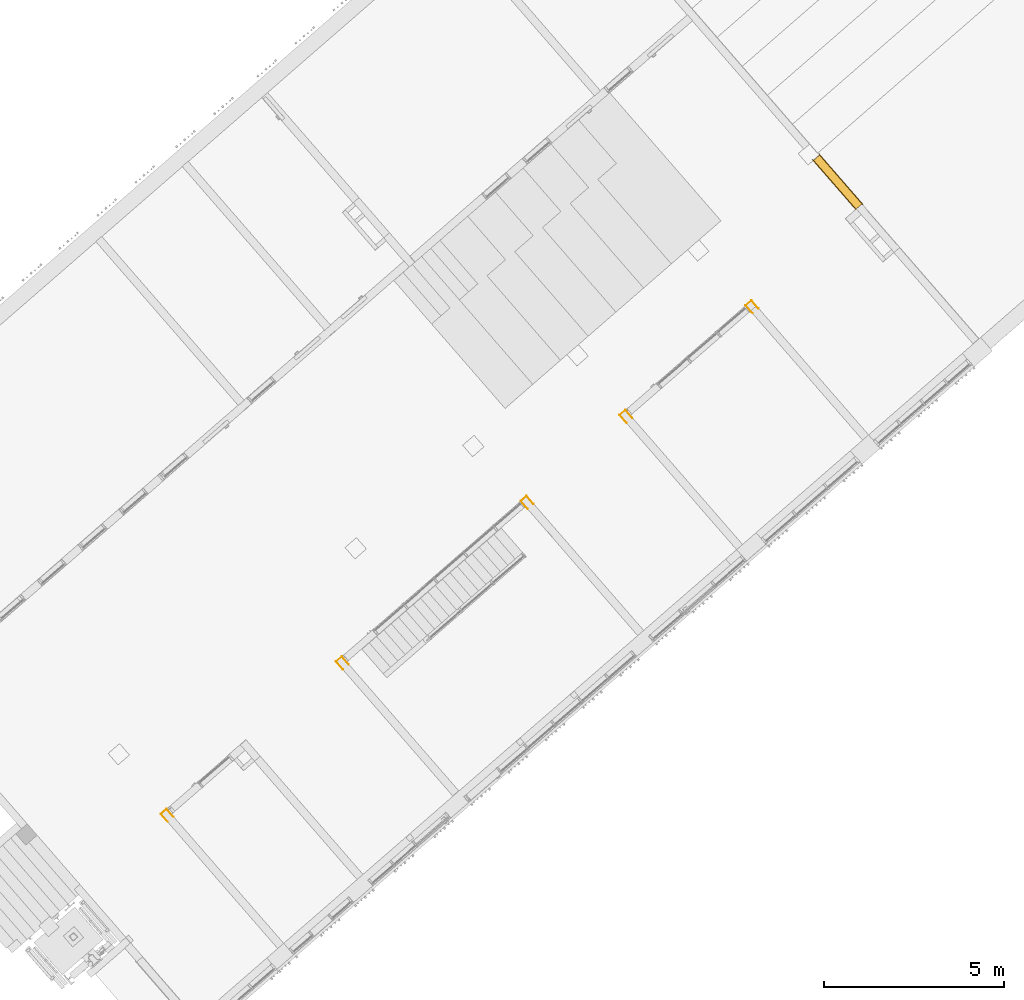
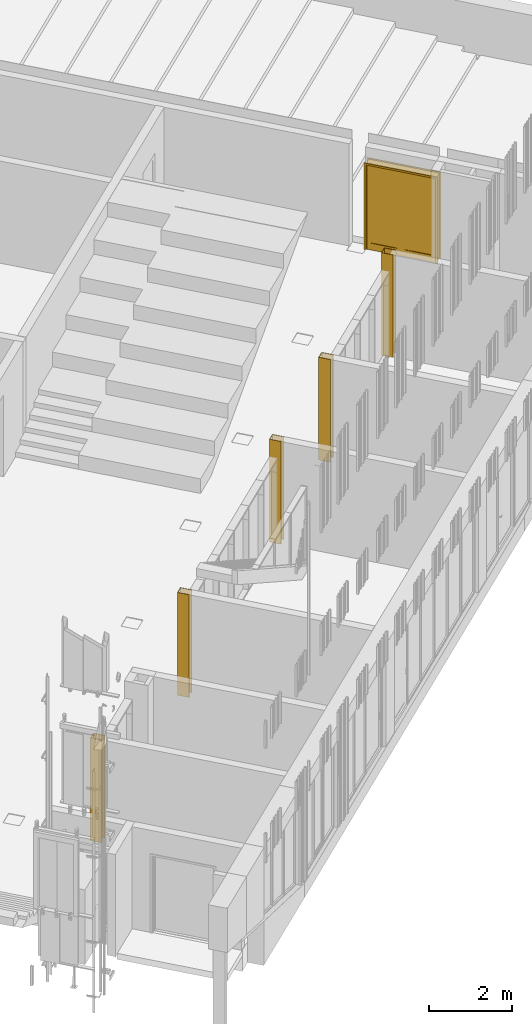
# One storey, part 112 of 124: 5 coverings, 1 door.
"""IFC2X3 building model written with IfcOpenShell, lengths in millimetres."""

import ifcopenshell
import ifcopenshell.guid

model = None  # the IFC model being written
_history = None  # IfcOwnerHistory: only IFC2X3 demands one
_inside = {}  # id of a spatial element -> (the spatial element, [elements in it])
_under = {}  # id of a project, library or spatial element -> (it, [spatial elements below it])
_declared = {}  # id of a project -> (the project, [libraries it declares])
_typed = {}  # id of a type object -> (the type object, [elements of that type])
_made_of = {}  # id of a material, layer set ... -> (it, [elements and type objects made of it])


def new_model(schema):
    """Start an empty IFC model of exactly this schema.

    Asked for "IFC4X3", IfcOpenShell would pick the latest addendum, in which some entities
    have other attributes; the version numbers below select the first issue.
    IFC2X3 requires an IfcOwnerHistory on every rooted entity: one is made here for all.
    """
    global model, _history
    if schema == "IFC4X3":
        model = ifcopenshell.file(schema_version=(4, 3, 0, 0))
    else:
        model = ifcopenshell.file(schema=schema)
    _inside.clear()
    _under.clear()
    _declared.clear()
    _typed.clear()
    _made_of.clear()
    _history = None
    if model.schema == "IFC2X3":
        org = make("IfcOrganization", Name="unknown")
        user = make(
            "IfcPersonAndOrganization",
            ThePerson=make("IfcPerson", FamilyName="unknown"),
            TheOrganization=org,
        )
        app = make(
            "IfcApplication",
            ApplicationDeveloper=org,
            Version="unknown",
            ApplicationFullName="unknown",
            ApplicationIdentifier="unknown",
        )
        _history = make(
            "IfcOwnerHistory",
            OwningUser=user,
            OwningApplication=app,
            ChangeAction="ADDED",
            CreationDate=0,
        )
    return model


def make(cls, **values):
    """One entity of the class cls with the attributes given. An attribute that is None is left unset."""
    return model.create_entity(
        cls, **{name: value for name, value in values.items() if value is not None}
    )


def entity(cls, *values):
    """Any entity or typed value of the class cls, its attributes in the order of the schema. None: left unset."""
    e = model.create_entity(cls)
    for i, value in enumerate(values):
        if value is not None:
            e[i] = value
    return e


def rooted(cls, **values):
    """An entity with a GlobalId (a new one), such as an element, a storey or a relation."""
    return make(cls, GlobalId=ifcopenshell.guid.new(), OwnerHistory=_history, **values)


def si_unit(unit_type, name, prefix=None):
    """IfcSIUnit, for example si_unit("LENGTHUNIT", "METRE", prefix="MILLI")."""
    return make("IfcSIUnit", UnitType=unit_type, Prefix=prefix, Name=name)


def converted_unit(unit_type, name, factor, base, dimensions=None, offset=None):
    """IfcConversionBasedUnit, such as the inch: factor (a typed value) times the base unit."""
    return make(
        "IfcConversionBasedUnit"
        if offset is None
        else "IfcConversionBasedUnitWithOffset",
        ConversionOffset=offset,
        Dimensions=None
        if dimensions is None
        else entity("IfcDimensionalExponents", *dimensions),
        UnitType=unit_type,
        Name=name,
        ConversionFactor=make(
            "IfcMeasureWithUnit", ValueComponent=factor, UnitComponent=base
        ),
    )


def derived_unit(unit_type, elements):
    """IfcDerivedUnit: a product of units, each with its exponent."""
    return make(
        "IfcDerivedUnit",
        Elements=[
            make("IfcDerivedUnitElement", Unit=unit, Exponent=power)
            for unit, power in elements
        ],
        UnitType=unit_type,
    )


def money_unit(currency):
    """IfcMonetaryUnit."""
    return make("IfcMonetaryUnit", Currency=currency)


def assignment(units):
    """IfcUnitAssignment: the units of a project."""
    return None if units is None else make("IfcUnitAssignment", Units=units)


def point(xyz):
    """IfcCartesianPoint."""
    return None if xyz is None else make("IfcCartesianPoint", Coordinates=xyz)


def direction(xyz):
    """IfcDirection."""
    return None if xyz is None else make("IfcDirection", DirectionRatios=xyz)


def frame(location, z_axis=None, x_axis=None):
    """IfcAxis2Placement3D, a coordinate frame: its origin and axes. An axis left out is left unset."""
    return make(
        "IfcAxis2Placement3D",
        Location=point(location),
        Axis=direction(z_axis),
        RefDirection=direction(x_axis),
    )


def origin_with_axes():
    """The frame at (0, 0, 0) with the z axis (0, 0, 1) and the x axis (1, 0, 0) written out."""
    return frame((0.0, 0.0, 0.0), z_axis=(0.0, 0.0, 1.0), x_axis=(1.0, 0.0, 0.0))


def place(relative_to, where):
    """IfcLocalPlacement: puts the frame where relative to a parent placement (None: the world)."""
    return make(
        "IfcLocalPlacement", PlacementRelTo=relative_to, RelativePlacement=where
    )


def context(
    kind, dimensions, precision=None, world=None, true_north=None, identifier=None
):
    """IfcGeometricRepresentationContext, for example the 3D "Model" context."""
    return make(
        "IfcGeometricRepresentationContext",
        ContextIdentifier=identifier,
        ContextType=kind,
        CoordinateSpaceDimension=dimensions,
        Precision=precision,
        WorldCoordinateSystem=world,
        TrueNorth=true_north,
    )


def subcontext(parent, identifier, kind, view, scale=None):
    """IfcGeometricRepresentationSubContext, for example "Body" below "Model"."""
    return make(
        "IfcGeometricRepresentationSubContext",
        ContextIdentifier=identifier,
        ContextType=kind,
        ParentContext=parent,
        TargetScale=scale,
        TargetView=view,
    )


def project(units=None, contexts=None):
    """IfcProject with its units and contexts."""
    return rooted(
        "IfcProject",
        Name="project",
        RepresentationContexts=contexts,
        UnitsInContext=assignment(units),
    )


def spatial(cls, under=None, at=None, **own):
    """A site, building, storey or space (cls), placed at a placement, below another one or the project."""
    s = rooted(cls, ObjectPlacement=at, **own)
    if under is not None:
        _under.setdefault(under.id(), (under, []))[1].append(s)
    return s


def faces_of(points, faces, orient=None, outer=None):
    """IfcFace entities. A face is a list of loops; a loop is a list of indices into points, from 0.

    orient and outer hold one flag for each loop. By default every Orientation is true, the
    first loop of a face is its IfcFaceOuterBound and the others are IfcFaceBound.
    """
    made = []
    for i, loops in enumerate(faces):
        bounds = []
        for j, loop in enumerate(loops):
            is_outer = j == 0 if outer is None else outer[i][j]
            bounds.append(
                make(
                    "IfcFaceOuterBound" if is_outer else "IfcFaceBound",
                    Bound=make("IfcPolyLoop", Polygon=[points[k] for k in loop]),
                    Orientation=True if orient is None else orient[i][j],
                )
            )
        made.append(make("IfcFace", Bounds=bounds))
    return made


def open_shell(faces, orient=None, outer=None):
    """The faces of one IfcOpenShell. surface_model builds it on its shared points."""
    return ("IfcOpenShell", faces, orient, outer)


def faceted_brep(points, faces, orient=None, outer=None, voids=None):
    """IfcFacetedBrep: a solid bounded by flat faces; with voids (closed shells), ...WithVoids."""
    shared = [point(p) for p in points]
    hull = make("IfcClosedShell", CfsFaces=faces_of(shared, faces, orient, outer))
    if voids is None:
        return make("IfcFacetedBrep", Outer=hull)
    return make(
        "IfcFacetedBrepWithVoids",
        Outer=hull,
        Voids=[
            make(cls, CfsFaces=faces_of(shared, fs, o, b)) for cls, fs, o, b in voids
        ],
    )


def surface_model(cls, points, shells):
    """IfcFaceBasedSurfaceModel or IfcShellBasedSurfaceModel (cls): surfaces that need not close."""
    shared = [point(p) for p in points]
    made = [make(c, CfsFaces=faces_of(shared, fs, o, b)) for c, fs, o, b in shells]
    if cls == "IfcFaceBasedSurfaceModel":
        return make(cls, FbsmFaces=made)
    return make(cls, SbsmBoundary=made)


def shape(context_of_items, identifier, shape_type, items):
    """IfcShapeRepresentation: the items that make up one representation, for example the "Body"."""
    return make(
        "IfcShapeRepresentation",
        ContextOfItems=context_of_items,
        RepresentationIdentifier=identifier,
        RepresentationType=shape_type,
        Items=items,
    )


def material(Name=None, Category=None):
    """IfcMaterial."""
    return make("IfcMaterial", Name=Name, Category=Category)


def material_list(materials):
    """IfcMaterialList."""
    return make("IfcMaterialList", Materials=materials)


def made_of(thing, what):
    """Note that an element or type object is made of a material, layer set ...; save() writes the relation."""
    if what is not None:
        _made_of.setdefault(what.id(), (what, []))[1].append(thing)
    return thing


def type_object(cls, material=None, **own):
    """A type object (cls), such as IfcWallType, which elements share."""
    return made_of(rooted(cls, **own), material)


def element(
    cls,
    number,
    at=None,
    inside=None,
    cuts=None,
    type_object=None,
    material=None,
    context=None,
    identifier="Body",
    shape_type=None,
    held_by="IfcProductDefinitionShape",
    body=None,
    shapes=None,
    **own,
):
    """One element of the class cls, such as IfcWall. Its Tag is "e" and its number.

    at: its placement. inside: the storey or other place that contains it. cuts: it is an
    opening in that element (IfcRelVoidsElement). A single representation is given by context,
    identifier, shape_type and body (its items); several are given by shapes. held_by: the class
    of the entity that holds the representations. save() writes the other relations.
    """
    e = rooted(cls, Tag="e%d" % number, ObjectPlacement=at, **own)
    if body is not None:
        shapes = [shape(context, identifier, shape_type, body)]
    if shapes is not None:
        e.Representation = make(held_by, Representations=shapes)
    if inside is not None:
        _inside.setdefault(inside.id(), (inside, []))[1].append(e)
    if cuts is not None:
        rooted(
            "IfcRelVoidsElement", RelatingBuildingElement=cuts, RelatedOpeningElement=e
        )
    if type_object is not None:
        _typed.setdefault(type_object.id(), (type_object, []))[1].append(e)
    return made_of(e, material)


def aggregate(whole, parts):
    """IfcRelAggregates: a whole, such as a stair, and the parts it consists of."""
    return rooted("IfcRelAggregates", RelatingObject=whole, RelatedObjects=parts)


def save(model, path):
    """Write the relations noted so far, then the file.

    IfcRelAggregates (storeys below a building ...), IfcRelContainedInSpatialStructure (elements
    in a storey), IfcRelDefinesByType, IfcRelAssociatesMaterial and IfcRelDeclares: one each for
    every whole, place, type object, material and project.
    """
    for whole, parts in _under.values():
        aggregate(whole, parts)
    for where, things in _inside.values():
        rooted(
            "IfcRelContainedInSpatialStructure",
            RelatedElements=things,
            RelatingStructure=where,
        )
    for kind, things in _typed.values():
        rooted("IfcRelDefinesByType", RelatedObjects=things, RelatingType=kind)
    for what, things in _made_of.values():
        rooted("IfcRelAssociatesMaterial", RelatedObjects=things, RelatingMaterial=what)
    for by, libraries in _declared.values():
        rooted("IfcRelDeclares", RelatingContext=by, RelatedDefinitions=libraries)
    model.write(path)


model = new_model("IFC2X3")

# Units and contexts
model_context = context("Model", 3, precision=1e-05, world=origin_with_axes(), true_north=direction((0.0, 1.0)))
body_context = subcontext(model_context, "Body", "Model", "MODEL_VIEW")
ifc_project = project(units=[si_unit("LENGTHUNIT", "METRE", prefix="MILLI"), si_unit("AREAUNIT", "SQUARE_METRE"), si_unit("VOLUMEUNIT", "CUBIC_METRE"), converted_unit("PLANEANGLEUNIT", "DEGREE", entity("IfcPlaneAngleMeasure", 0.0174532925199), si_unit("PLANEANGLEUNIT", "RADIAN"), dimensions=[0, 0, 0, 0, 0, 0, 0]), si_unit("SOLIDANGLEUNIT", "STERADIAN"), money_unit("EUR"), converted_unit("TIMEUNIT", "Year", entity("IfcTimeMeasure", 31556926.0), si_unit("TIMEUNIT", "SECOND"), dimensions=[0, 0, 1, 0, 0, 0, 0]), si_unit("MASSUNIT", "GRAM", prefix="KILO"), si_unit("THERMODYNAMICTEMPERATUREUNIT", "DEGREE_CELSIUS"), si_unit("LUMINOUSINTENSITYUNIT", "LUMEN"), si_unit("ENERGYUNIT", "JOULE", prefix="MEGA"), derived_unit("THERMALCONDUCTANCEUNIT", [(si_unit("POWERUNIT", "WATT"), 1), (si_unit("LENGTHUNIT", "METRE"), -1), (si_unit("THERMODYNAMICTEMPERATUREUNIT", "KELVIN"), -1)]), derived_unit("SPECIFICHEATCAPACITYUNIT", [(si_unit("ENERGYUNIT", "JOULE"), 1), (si_unit("MASSUNIT", "GRAM", prefix="KILO"), -1), (si_unit("THERMODYNAMICTEMPERATUREUNIT", "KELVIN"), -1)]), derived_unit("MASSDENSITYUNIT", [(si_unit("MASSUNIT", "GRAM", prefix="KILO"), 1), (si_unit("VOLUMEUNIT", "CUBIC_METRE"), -1)])], contexts=[model_context])

# Site, building, storey
site_placement = place(None, origin_with_axes())
site = spatial("IfcSite", under=ifc_project, at=site_placement, Name="Site", CompositionType="ELEMENT")
building_placement = place(site_placement, origin_with_axes())
building = spatial("IfcBuilding", under=site, at=building_placement, Name="Building", CompositionType="ELEMENT")
storey_placement = place(building_placement, frame((0.0, 0.0, -1615.0), z_axis=(0.0, 0.0, 1.0), x_axis=(1.0, 0.0, 0.0)))
storey = spatial("IfcBuildingStorey", under=building, at=storey_placement, Name="0  korrus", CompositionType="ELEMENT", Elevation=-1615.0)

# Door
door_style = type_object("IfcDoorStyle", Name="SU-08   1\xa0800×2\xa0500", ConstructionType="NOTDEFINED", OperationType="DOUBLE_DOOR_SINGLE_SWING", ParameterTakesPrecedence=False, Sizeable=False)
door_placement = place(storey_placement, frame((168852.224799, 98675.3375816, 0.0), z_axis=(0.0, 0.0, 1.0), x_axis=(-0.656059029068, 0.754709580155, 0.0)))
element("IfcDoor", 1, at=door_placement, inside=storey, type_object=door_style, Name="Siseuks * Double Door 22", OverallHeight=2500.0, OverallWidth=1800.0, context=body_context, shape_type="SurfaceModel", body=[
    faceted_brep([(0.0, -5.0, 0.0), (0.0, 0.0, 0.0), (25.0, 0.0, 0.0), (25.0, -5.0, 0.0), (0.0, -5.0, 2500.0), (0.0, 0.0, 2500.0), (25.0, 0.0, 2475.0), (25.0, -5.0, 2475.0)], [[[0, 1, 2, 3]], [[4, 5, 1, 0]], [[1, 5, 6, 2]], [[3, 2, 6, 7]], [[0, 3, 7, 4]], [[7, 6, 5, 4]]]),
    faceted_brep([(1800.0, -5.0, 2500.0), (1800.0, 0.0, 2500.0), (1775.0, 0.0, 2475.0), (1775.0, -5.0, 2475.0), (1800.0, -5.0, 0.0), (1800.0, 0.0, 0.0), (1775.0, 0.0, 0.0), (1775.0, -5.0, 0.0)], [[[0, 1, 2, 3]], [[4, 5, 1, 0]], [[1, 5, 6, 2]], [[3, 2, 6, 7]], [[0, 3, 7, 4]], [[7, 6, 5, 4]]]),
    faceted_brep([(25.0, -5.0, 2475.0), (25.0, 0.0, 2475.0), (1775.0, 0.0, 2475.0), (1775.0, -5.0, 2475.0), (0.0, -5.0, 2500.0), (0.0, 0.0, 2500.0), (1800.0, 0.0, 2500.0), (1800.0, -5.0, 2500.0)], [[[0, 1, 2, 3]], [[4, 5, 1, 0]], [[1, 5, 6, 2]], [[3, 2, 6, 7]], [[0, 3, 7, 4]], [[7, 6, 5, 4]]]),
    faceted_brep([(-37.0, 19.0, 0.0), (13.0, 19.0, 0.0), (13.0, 0.0, 0.0), (-37.0, 0.0, 0.0), (-37.0, 19.0, 2537.0), (13.0, 19.0, 2487.0), (13.0, 0.0, 2487.0), (-37.0, 0.0, 2537.0)], [[[0, 1, 2, 3]], [[0, 4, 5, 1]], [[1, 5, 6, 2]], [[3, 2, 6, 7]], [[4, 0, 3, 7]], [[5, 4, 7, 6]]]),
    faceted_brep([(1837.0, 19.0, 2537.0), (1787.0, 19.0, 2487.0), (1787.0, 0.0, 2487.0), (1837.0, 0.0, 2537.0), (1837.0, 19.0, 0.0), (1787.0, 19.0, 0.0), (1787.0, 0.0, 0.0), (1837.0, 0.0, 0.0)], [[[0, 1, 2, 3]], [[0, 4, 5, 1]], [[1, 5, 6, 2]], [[3, 2, 6, 7]], [[4, 0, 3, 7]], [[5, 4, 7, 6]]]),
    faceted_brep([(-37.0, 19.0, 2537.0), (13.0, 19.0, 2487.0), (13.0, 0.0, 2487.0), (-37.0, 0.0, 2537.0), (1837.0, 19.0, 2537.0), (1787.0, 19.0, 2487.0), (1787.0, 0.0, 2487.0), (1837.0, 0.0, 2537.0)], [[[0, 1, 2, 3]], [[0, 4, 5, 1]], [[1, 5, 6, 2]], [[3, 2, 6, 7]], [[4, 0, 3, 7]], [[5, 4, 7, 6]]]),
    faceted_brep([(0.0, -120.0, 0.0), (25.0, -120.0, 0.0), (25.0, -220.0, 0.0), (0.0, -220.0, 0.0), (0.0, -120.0, 2500.0), (25.0, -120.0, 2475.0), (25.0, -220.0, 2475.0), (0.0, -220.0, 2500.0)], [[[0, 1, 2, 3]], [[0, 4, 5, 1]], [[1, 5, 6, 2]], [[3, 2, 6, 7]], [[4, 0, 3, 7]], [[5, 4, 7, 6]]]),
    faceted_brep([(1800.0, -120.0, 2500.0), (1775.0, -120.0, 2475.0), (1775.0, -220.0, 2475.0), (1800.0, -220.0, 2500.0), (1800.0, -120.0, 0.0), (1775.0, -120.0, 0.0), (1775.0, -220.0, 0.0), (1800.0, -220.0, 0.0)], [[[0, 1, 2, 3]], [[0, 4, 5, 1]], [[1, 5, 6, 2]], [[3, 2, 6, 7]], [[4, 0, 3, 7]], [[5, 4, 7, 6]]]),
    faceted_brep([(0.0, -120.0, 2500.0), (25.0, -120.0, 2475.0), (25.0, -220.0, 2475.0), (0.0, -220.0, 2500.0), (1800.0, -120.0, 2500.0), (1775.0, -120.0, 2475.0), (1775.0, -220.0, 2475.0), (1800.0, -220.0, 2500.0)], [[[0, 1, 2, 3]], [[0, 4, 5, 1]], [[1, 5, 6, 2]], [[3, 2, 6, 7]], [[4, 0, 3, 7]], [[5, 4, 7, 6]]]),
    faceted_brep([(-37.0, -239.0, 0.0), (-37.0, -220.0, 0.0), (13.0, -220.0, 0.0), (13.0, -239.0, 0.0), (-37.0, -239.0, 2537.0), (-37.0, -220.0, 2537.0), (13.0, -220.0, 2487.0), (13.0, -239.0, 2487.0)], [[[0, 1, 2, 3]], [[4, 5, 1, 0]], [[1, 5, 6, 2]], [[3, 2, 6, 7]], [[0, 3, 7, 4]], [[7, 6, 5, 4]]]),
    faceted_brep([(1837.0, -239.0, 2537.0), (1837.0, -220.0, 2537.0), (1787.0, -220.0, 2487.0), (1787.0, -239.0, 2487.0), (1837.0, -239.0, 0.0), (1837.0, -220.0, 0.0), (1787.0, -220.0, 0.0), (1787.0, -239.0, 0.0)], [[[0, 1, 2, 3]], [[4, 5, 1, 0]], [[1, 5, 6, 2]], [[3, 2, 6, 7]], [[0, 3, 7, 4]], [[7, 6, 5, 4]]]),
    faceted_brep([(-37.0, -239.0, 2537.0), (-37.0, -220.0, 2537.0), (13.0, -220.0, 2487.0), (13.0, -239.0, 2487.0), (1837.0, -239.0, 2537.0), (1837.0, -220.0, 2537.0), (1787.0, -220.0, 2487.0), (1787.0, -239.0, 2487.0)], [[[0, 1, 2, 3]], [[4, 5, 1, 0]], [[1, 5, 6, 2]], [[3, 2, 6, 7]], [[0, 3, 7, 4]], [[7, 6, 5, 4]]]),
    faceted_brep([(40.0, -45.0, 0.0), (40.0, -45.0, 2460.0), (40.0, -120.0, 2460.0), (40.0, -120.0, 0.0), (28.0, -45.0, 2460.0), (28.0, -45.0, 0.0), (28.0, -5.0, 2460.0), (0.0, -5.0, 2460.0), (0.0, -120.0, 2460.0), (0.0, -120.0, 0.0), (0.0, -5.0, 0.0), (28.0, -5.0, 0.0)], [[[0, 1, 2, 3]], [[4, 1, 0, 5]], [[4, 6, 7, 8, 2, 1]], [[3, 2, 8, 9]], [[5, 0, 3, 9, 10, 11]], [[6, 4, 5, 11]], [[6, 11, 10, 7]], [[10, 9, 8, 7]]]),
    faceted_brep([(1772.0, -45.0, 2460.0), (1760.0, -45.0, 2460.0), (1760.0, -120.0, 2460.0), (1800.0, -120.0, 2460.0), (1800.0, -5.0, 2460.0), (1772.0, -5.0, 2460.0), (1772.0, -45.0, 0.0), (1760.0, -45.0, 0.0), (1760.0, -120.0, 0.0), (1800.0, -120.0, 0.0), (1800.0, -5.0, 0.0), (1772.0, -5.0, 0.0)], [[[0, 1, 2, 3, 4, 5]], [[1, 0, 6, 7]], [[1, 7, 8, 2]], [[3, 2, 8, 9]], [[4, 3, 9, 10]], [[11, 5, 4, 10]], [[0, 5, 11, 6]], [[6, 11, 10, 9, 8, 7]]]),
    faceted_brep([(28.0, -5.0, 2472.0), (28.0, -5.0, 2460.0), (0.0, -5.0, 2460.0), (0.0, -5.0, 2500.0), (1800.0, -5.0, 2500.0), (1800.0, -5.0, 2460.0), (1772.0, -5.0, 2460.0), (1772.0, -5.0, 2472.0), (28.0, -45.0, 2472.0), (28.0, -45.0, 2460.0), (40.0, -45.0, 2460.0), (40.0, -120.0, 2460.0), (0.0, -120.0, 2460.0), (0.0, -120.0, 2500.0), (1800.0, -120.0, 2500.0), (1800.0, -120.0, 2460.0), (1772.0, -45.0, 2460.0), (1760.0, -120.0, 2460.0), (1760.0, -45.0, 2460.0), (1772.0, -45.0, 2472.0)], [[[0, 1, 2, 3, 4, 5, 6, 7]], [[1, 0, 8, 9]], [[9, 10, 11, 12, 2, 1]], [[2, 12, 13, 3]], [[3, 13, 14, 4]], [[4, 14, 15, 5]], [[16, 6, 5, 15, 17, 18]], [[7, 6, 16, 19]], [[0, 7, 19, 8]], [[16, 18, 10, 9, 8, 19]], [[10, 18, 17, 11]], [[17, 15, 14, 13, 12, 11]]]),
    faceted_brep([(1772.0, -5.0, 200.0), (1772.0, -45.0, 200.0), (1672.0, -45.0, 200.0), (1672.0, -5.0, 200.0), (1772.0, -5.0, 2372.0), (1772.0, -45.0, 2372.0), (1672.0, -45.0, 2372.0), (1672.0, -5.0, 2372.0)], [[[0, 1, 2, 3]], [[4, 5, 1, 0]], [[1, 5, 6, 2]], [[3, 2, 6, 7]], [[0, 3, 7, 4]], [[7, 6, 5, 4]]]),
    faceted_brep([(900.0, -5.0, 200.0), (900.0, -45.0, 200.0), (900.0, -45.0, 2372.0), (900.0, -5.0, 2372.0), (1000.0, -5.0, 200.0), (1000.0, -45.0, 200.0), (1000.0, -45.0, 2372.0), (1000.0, -5.0, 2372.0)], [[[0, 1, 2, 3]], [[4, 5, 1, 0]], [[1, 5, 6, 2]], [[3, 2, 6, 7]], [[0, 3, 7, 4]], [[7, 6, 5, 4]]]),
    faceted_brep([(1772.0, -5.0, 0.0), (1772.0, -45.0, 0.0), (900.0, -45.0, 0.0), (900.0, -5.0, 0.0), (1772.0, -5.0, 200.0), (1772.0, -45.0, 200.0), (1672.0, -45.0, 200.0), (1000.0, -45.0, 200.0), (900.0, -45.0, 200.0), (900.0, -5.0, 200.0), (1000.0, -5.0, 200.0), (1672.0, -5.0, 200.0)], [[[0, 1, 2, 3]], [[4, 5, 1, 0]], [[1, 5, 6, 7, 8, 2]], [[3, 2, 8, 9]], [[0, 3, 9, 10, 11, 4]], [[11, 6, 5, 4]], [[10, 7, 6, 11]], [[9, 8, 7, 10]]]),
    faceted_brep([(1772.0, -5.0, 2472.0), (1772.0, -45.0, 2472.0), (1772.0, -45.0, 2372.0), (1772.0, -5.0, 2372.0), (900.0, -5.0, 2472.0), (900.0, -45.0, 2472.0), (900.0, -45.0, 2372.0), (1000.0, -45.0, 2372.0), (1672.0, -45.0, 2372.0), (1672.0, -5.0, 2372.0), (1000.0, -5.0, 2372.0), (900.0, -5.0, 2372.0)], [[[0, 1, 2, 3]], [[4, 5, 1, 0]], [[1, 5, 6, 7, 8, 2]], [[3, 2, 8, 9]], [[0, 3, 9, 10, 11, 4]], [[11, 6, 5, 4]], [[10, 7, 6, 11]], [[9, 8, 7, 10]]]),
    surface_model("IfcShellBasedSurfaceModel", [(1672.0, -19.0, 200.0), (1000.0, -19.0, 200.0), (1000.0, -19.0, 2372.0), (1672.0, -19.0, 2372.0)], [open_shell([[[0, 1, 2, 3]]])]),
    surface_model("IfcShellBasedSurfaceModel", [(1672.0, -31.0, 200.0), (1672.0, -31.0, 2372.0), (1000.0, -31.0, 2372.0), (1000.0, -31.0, 200.0)], [open_shell([[[0, 1, 2, 3]]])]),
    faceted_brep([(28.0, -5.0, 200.0), (128.0, -5.0, 200.0), (128.0, -45.0, 200.0), (28.0, -45.0, 200.0), (28.0, -5.0, 2372.0), (128.0, -5.0, 2372.0), (128.0, -45.0, 2372.0), (28.0, -45.0, 2372.0)], [[[0, 1, 2, 3]], [[0, 4, 5, 1]], [[1, 5, 6, 2]], [[3, 2, 6, 7]], [[4, 0, 3, 7]], [[5, 4, 7, 6]]]),
    faceted_brep([(900.0, -5.0, 200.0), (900.0, -5.0, 2372.0), (900.0, -45.0, 2372.0), (900.0, -45.0, 200.0), (800.0, -5.0, 200.0), (800.0, -5.0, 2372.0), (800.0, -45.0, 2372.0), (800.0, -45.0, 200.0)], [[[0, 1, 2, 3]], [[0, 4, 5, 1]], [[1, 5, 6, 2]], [[3, 2, 6, 7]], [[4, 0, 3, 7]], [[5, 4, 7, 6]]]),
    faceted_brep([(28.0, -5.0, 0.0), (900.0, -5.0, 0.0), (900.0, -45.0, 0.0), (28.0, -45.0, 0.0), (28.0, -5.0, 200.0), (128.0, -5.0, 200.0), (800.0, -5.0, 200.0), (900.0, -5.0, 200.0), (900.0, -45.0, 200.0), (800.0, -45.0, 200.0), (128.0, -45.0, 200.0), (28.0, -45.0, 200.0)], [[[0, 1, 2, 3]], [[0, 4, 5, 6, 7, 1]], [[1, 7, 8, 2]], [[3, 2, 8, 9, 10, 11]], [[4, 0, 3, 11]], [[5, 4, 11, 10]], [[6, 5, 10, 9]], [[7, 6, 9, 8]]]),
    faceted_brep([(28.0, -5.0, 2472.0), (28.0, -5.0, 2372.0), (28.0, -45.0, 2372.0), (28.0, -45.0, 2472.0), (900.0, -5.0, 2472.0), (900.0, -5.0, 2372.0), (800.0, -5.0, 2372.0), (128.0, -5.0, 2372.0), (128.0, -45.0, 2372.0), (800.0, -45.0, 2372.0), (900.0, -45.0, 2372.0), (900.0, -45.0, 2472.0)], [[[0, 1, 2, 3]], [[0, 4, 5, 6, 7, 1]], [[1, 7, 8, 2]], [[3, 2, 8, 9, 10, 11]], [[4, 0, 3, 11]], [[5, 4, 11, 10]], [[6, 5, 10, 9]], [[7, 6, 9, 8]]]),
    surface_model("IfcShellBasedSurfaceModel", [(128.0, -19.0, 200.0), (128.0, -19.0, 2372.0), (800.0, -19.0, 2372.0), (800.0, -19.0, 200.0)], [open_shell([[[0, 1, 2, 3]]])]),
    surface_model("IfcShellBasedSurfaceModel", [(128.0, -31.0, 200.0), (800.0, -31.0, 200.0), (800.0, -31.0, 2372.0), (128.0, -31.0, 2372.0)], [open_shell([[[0, 1, 2, 3]]])]),
])

# Coverings
ifc_material = material(Name="Krohv - Lubjakivi")
ifc_material_list = material_list([ifc_material, ifc_material, ifc_material, ifc_material, ifc_material])
covering_type_1 = type_object("IfcCoveringType", Name="SS-01_krohv", PredefinedType="CLADDING")
covering_1_placement = place(storey_placement, frame((154497.944994, 85998.6005384, -20.0), z_axis=(0.0, 0.0, 1.0), x_axis=(-0.656059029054, 0.754709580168, 0.0)))
element("IfcCovering", 2, at=covering_1_placement, inside=storey, type_object=covering_type_1, material=ifc_material_list, Name="Foreground", PredefinedType="CLADDING", context=body_context, shape_type="Brep", body=[
    faceted_brep([(150.0, 0.0, 0.0), (140.0, 0.0, 0.0), (140.0, 0.0, 3020.0), (150.0, 0.0, 3020.0), (150.0, -9.99999999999, 0.0), (140.0, -9.99999999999, 0.0), (140.0, -9.99999999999, 3020.0), (150.0, -9.99999999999, 3020.0)], [[[0, 1, 2, 3]], [[4, 5, 1, 0]], [[5, 6, 2, 1]], [[6, 7, 3, 2]], [[7, 4, 0, 3]], [[4, 7, 6, 5]]]),
    faceted_brep([(140.0, 0.0, 0.0), (-150.0, 0.0, 0.0), (-150.0, 0.0, 3020.0), (140.0, 0.0, 3020.0), (140.0, -9.99999999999, 0.0), (-150.0, -9.99999999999, 0.0), (-150.0, -9.99999999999, 3020.0), (140.0, -9.99999999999, 3020.0)], [[[0, 1, 2, 3]], [[4, 5, 1, 0]], [[5, 6, 2, 1]], [[6, 7, 3, 2]], [[7, 4, 0, 3]], [[4, 7, 6, 5]]]),
    faceted_brep([(150.0, -210.0, 0.0), (140.0, -210.0, 0.0), (140.0, -210.0, 3020.0), (150.0, -210.0, 3020.0), (150.0, -220.0, 0.0), (140.0, -220.0, 0.0), (140.0, -220.0, 3020.0), (150.0, -220.0, 3020.0)], [[[0, 1, 2, 3]], [[4, 5, 1, 0]], [[5, 6, 2, 1]], [[6, 7, 3, 2]], [[7, 4, 0, 3]], [[4, 7, 6, 5]]]),
    faceted_brep([(140.0, -210.0, 0.0), (-150.0, -210.0, 0.0), (-150.0, -210.0, 3020.0), (140.0, -210.0, 3020.0), (140.0, -220.0, 0.0), (-150.0, -220.0, 0.0), (-150.0, -220.0, 3020.0), (140.0, -220.0, 3020.0)], [[[0, 1, 2, 3]], [[4, 5, 1, 0]], [[5, 6, 2, 1]], [[6, 7, 3, 2]], [[7, 4, 0, 3]], [[4, 7, 6, 5]]]),
    faceted_brep([(150.0, -9.99999999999, 0.0), (140.0, -9.99999999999, 0.0), (140.0, -9.99999999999, 3020.0), (150.0, -9.99999999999, 3020.0), (150.0, -210.0, 0.0), (140.0, -210.0, 0.0), (140.0, -210.0, 3020.0), (150.0, -210.0, 3020.0)], [[[0, 1, 2, 3]], [[4, 5, 1, 0]], [[5, 6, 2, 1]], [[6, 7, 3, 2]], [[7, 4, 0, 3]], [[4, 7, 6, 5]]]),
])
covering_2_placement = place(storey_placement, frame((162377.113027, 92847.8568176, -20.0), z_axis=(0.0, 0.0, 1.0), x_axis=(-0.656059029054, 0.754709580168, 0.0)))
element("IfcCovering", 3, at=covering_2_placement, inside=storey, type_object=covering_type_1, material=ifc_material_list, Name="Foreground", PredefinedType="CLADDING", context=body_context, shape_type="Brep", body=[
    faceted_brep([(150.0, 0.0, 0.0), (140.0, 0.0, 0.0), (140.0, 0.0, 3020.0), (150.0, 0.0, 3020.0), (150.0, -9.99999999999, 0.0), (140.0, -10.0, 0.0), (140.0, -10.0, 3020.0), (150.0, -9.99999999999, 3020.0)], [[[0, 1, 2, 3]], [[4, 5, 1, 0]], [[5, 6, 2, 1]], [[6, 7, 3, 2]], [[7, 4, 0, 3]], [[4, 7, 6, 5]]]),
    faceted_brep([(140.0, 0.0, 0.0), (-150.0, 0.0, 0.0), (-150.0, 0.0, 3020.0), (140.0, 0.0, 3020.0), (140.0, -10.0, 0.0), (-150.0, -10.0, 0.0), (-150.0, -10.0, 3020.0), (140.0, -10.0, 3020.0)], [[[0, 1, 2, 3]], [[4, 5, 1, 0]], [[5, 6, 2, 1]], [[6, 7, 3, 2]], [[7, 4, 0, 3]], [[4, 7, 6, 5]]]),
    faceted_brep([(150.0, -210.0, 0.0), (140.0, -210.0, 0.0), (140.0, -210.0, 3020.0), (150.0, -210.0, 3020.0), (150.0, -220.0, 0.0), (140.0, -220.0, 0.0), (140.0, -220.0, 3020.0), (150.0, -220.0, 3020.0)], [[[0, 1, 2, 3]], [[4, 5, 1, 0]], [[5, 6, 2, 1]], [[6, 7, 3, 2]], [[7, 4, 0, 3]], [[4, 7, 6, 5]]]),
    faceted_brep([(140.0, -210.0, 0.0), (-150.0, -210.0, 0.0), (-150.0, -210.0, 3020.0), (140.0, -210.0, 3020.0), (140.0, -220.0, 0.0), (-150.0, -220.0, 0.0), (-150.0, -220.0, 3020.0), (140.0, -220.0, 3020.0)], [[[0, 1, 2, 3]], [[4, 5, 1, 0]], [[5, 6, 2, 1]], [[6, 7, 3, 2]], [[7, 4, 0, 3]], [[4, 7, 6, 5]]]),
    faceted_brep([(150.0, -9.99999999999, 0.0), (140.0, -10.0, 0.0), (140.0, -10.0, 3020.0), (150.0, -9.99999999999, 3020.0), (150.0, -210.0, 0.0), (140.0, -210.0, 0.0), (140.0, -210.0, 3020.0), (150.0, -210.0, 3020.0)], [[[0, 1, 2, 3]], [[4, 5, 1, 0]], [[5, 6, 2, 1]], [[6, 7, 3, 2]], [[7, 4, 0, 3]], [[4, 7, 6, 5]]]),
])
covering_3_placement = place(storey_placement, frame((165878.96538, 95891.970625, -20.0), z_axis=(0.0, 0.0, 1.0), x_axis=(-0.656059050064, 0.754709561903, 0.0)))
element("IfcCovering", 4, at=covering_3_placement, inside=storey, type_object=covering_type_1, material=ifc_material_list, Name="Foreground", PredefinedType="CLADDING", context=body_context, shape_type="Brep", body=[
    faceted_brep([(150.0, 0.0, 0.0), (140.0, 0.0, 0.0), (140.0, 0.0, 3020.0), (150.0, 0.0, 3020.0), (150.0, -9.99999999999, 0.0), (140.0, -9.99999999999, 0.0), (140.0, -9.99999999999, 3020.0), (150.0, -9.99999999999, 3020.0)], [[[0, 1, 2, 3]], [[4, 5, 1, 0]], [[5, 6, 2, 1]], [[6, 7, 3, 2]], [[7, 4, 0, 3]], [[4, 7, 6, 5]]]),
    faceted_brep([(140.0, 0.0, 0.0), (-150.0, 0.0, 0.0), (-150.0, 0.0, 3020.0), (140.0, 0.0, 3020.0), (140.0, -9.99999999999, 0.0), (-150.0, -10.0, 0.0), (-150.0, -10.0, 3020.0), (140.0, -9.99999999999, 3020.0)], [[[0, 1, 2, 3]], [[4, 5, 1, 0]], [[5, 6, 2, 1]], [[6, 7, 3, 2]], [[7, 4, 0, 3]], [[4, 7, 6, 5]]]),
    faceted_brep([(150.0, -210.0, 0.0), (140.0, -210.0, 0.0), (140.0, -210.0, 3020.0), (150.0, -210.0, 3020.0), (150.0, -220.0, 0.0), (140.0, -220.0, 0.0), (140.0, -220.0, 3020.0), (150.0, -220.0, 3020.0)], [[[0, 1, 2, 3]], [[4, 5, 1, 0]], [[5, 6, 2, 1]], [[6, 7, 3, 2]], [[7, 4, 0, 3]], [[4, 7, 6, 5]]]),
    faceted_brep([(140.0, -210.0, 0.0), (-150.0, -210.0, 0.0), (-150.0, -210.0, 3020.0), (140.0, -210.0, 3020.0), (140.0, -220.0, 0.0), (-150.0, -220.0, 0.0), (-150.0, -220.0, 3020.0), (140.0, -220.0, 3020.0)], [[[0, 1, 2, 3]], [[4, 5, 1, 0]], [[5, 6, 2, 1]], [[6, 7, 3, 2]], [[7, 4, 0, 3]], [[4, 7, 6, 5]]]),
    faceted_brep([(150.0, -9.99999999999, 0.0), (140.0, -9.99999999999, 0.0), (140.0, -9.99999999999, 3020.0), (150.0, -9.99999999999, 3020.0), (150.0, -210.0, 0.0), (140.0, -210.0, 0.0), (140.0, -210.0, 3020.0), (150.0, -210.0, 3020.0)], [[[0, 1, 2, 3]], [[4, 5, 1, 0]], [[5, 6, 2, 1]], [[6, 7, 3, 2]], [[7, 4, 0, 3]], [[4, 7, 6, 5]]]),
])
covering_4_placement = place(storey_placement, frame((149630.068221, 81767.0198172, -20.0), z_axis=(0.0, 0.0, 1.0), x_axis=(-0.656059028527, 0.754709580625, 0.0)))
element("IfcCovering", 5, at=covering_4_placement, inside=storey, type_object=covering_type_1, material=ifc_material_list, Name="Foreground", PredefinedType="CLADDING", context=body_context, shape_type="Brep", body=[
    faceted_brep([(150.0, 0.0, 0.0), (140.0, 0.0, 0.0), (140.0, 0.0, 3020.0), (150.0, 0.0, 3020.0), (150.0, -10.0, 0.0), (140.0, -10.0, 0.0), (140.0, -10.0, 3020.0), (150.0, -10.0, 3020.0)], [[[0, 1, 2, 3]], [[4, 5, 1, 0]], [[5, 6, 2, 1]], [[6, 7, 3, 2]], [[7, 4, 0, 3]], [[4, 7, 6, 5]]]),
    faceted_brep([(140.0, 0.0, 0.0), (-150.0, 0.0, 0.0), (-150.0, 0.0, 3020.0), (140.0, 0.0, 3020.0), (140.0, -10.0, 0.0), (-150.0, -9.99999999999, 0.0), (-150.0, -9.99999999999, 3020.0), (140.0, -10.0, 3020.0)], [[[0, 1, 2, 3]], [[4, 5, 1, 0]], [[5, 6, 2, 1]], [[6, 7, 3, 2]], [[7, 4, 0, 3]], [[4, 7, 6, 5]]]),
    faceted_brep([(150.0, -210.0, 0.0), (140.0, -210.0, 0.0), (140.0, -210.0, 3020.0), (150.0, -210.0, 3020.0), (150.0, -220.0, 0.0), (140.0, -220.0, 0.0), (140.0, -220.0, 3020.0), (150.0, -220.0, 3020.0)], [[[0, 1, 2, 3]], [[4, 5, 1, 0]], [[5, 6, 2, 1]], [[6, 7, 3, 2]], [[7, 4, 0, 3]], [[4, 7, 6, 5]]]),
    faceted_brep([(140.0, -210.0, 0.0), (-150.0, -210.0, 0.0), (-150.0, -210.0, 3020.0), (140.0, -210.0, 3020.0), (140.0, -220.0, 0.0), (-150.0, -220.0, 0.0), (-150.0, -220.0, 3020.0), (140.0, -220.0, 3020.0)], [[[0, 1, 2, 3]], [[4, 5, 1, 0]], [[5, 6, 2, 1]], [[6, 7, 3, 2]], [[7, 4, 0, 3]], [[4, 7, 6, 5]]]),
    faceted_brep([(150.0, -10.0, 0.0), (140.0, -10.0, 0.0), (140.0, -10.0, 3020.0), (150.0, -10.0, 3020.0), (150.0, -210.0, 0.0), (140.0, -210.0, 0.0), (140.0, -210.0, 3020.0), (150.0, -210.0, 3020.0)], [[[0, 1, 2, 3]], [[4, 5, 1, 0]], [[5, 6, 2, 1]], [[6, 7, 3, 2]], [[7, 4, 0, 3]], [[4, 7, 6, 5]]]),
])
covering_type_2 = type_object("IfcCoveringType", Name="SS-10_krohv", PredefinedType="CLADDING")
covering_5_placement = place(storey_placement, frame((159629.970552, 90459.8022949, -20.0), z_axis=(0.0, 0.0, 1.0), x_axis=(-0.656058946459, 0.754709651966, 0.0)))
element("IfcCovering", 6, at=covering_5_placement, inside=storey, type_object=covering_type_2, material=ifc_material_list, Name="Foreground", PredefinedType="CLADDING", context=body_context, shape_type="Brep", body=[
    faceted_brep([(150.0, 0.0, 0.0), (140.0, 0.0, 0.0), (140.0, 0.0, 3020.0), (150.0, 0.0, 3020.0), (150.0, -10.0, 0.0), (140.0, -10.0, 0.0), (140.0, -10.0, 3020.0), (150.0, -10.0, 3020.0)], [[[0, 1, 2, 3]], [[4, 5, 1, 0]], [[5, 6, 2, 1]], [[6, 7, 3, 2]], [[7, 4, 0, 3]], [[4, 7, 6, 5]]]),
    faceted_brep([(140.0, 0.0, 0.0), (-150.0, 0.0, 0.0), (-150.0, 0.0, 3020.0), (140.0, 0.0, 3020.0), (140.0, -10.0, 0.0), (-150.0, -10.0, 0.0), (-150.0, -10.0, 3020.0), (140.0, -10.0, 3020.0)], [[[0, 1, 2, 3]], [[4, 5, 1, 0]], [[5, 6, 2, 1]], [[6, 7, 3, 2]], [[7, 4, 0, 3]], [[4, 7, 6, 5]]]),
    faceted_brep([(150.0, -210.0, 0.0), (140.0, -210.0, 0.0), (140.0, -210.0, 3020.0), (150.0, -210.0, 3020.0), (150.0, -220.0, 0.0), (140.0, -220.0, 0.0), (140.0, -220.0, 3020.0), (150.0, -220.0, 3020.0)], [[[0, 1, 2, 3]], [[4, 5, 1, 0]], [[5, 6, 2, 1]], [[6, 7, 3, 2]], [[7, 4, 0, 3]], [[4, 7, 6, 5]]]),
    faceted_brep([(140.0, -210.0, 0.0), (-150.0, -210.0, 0.0), (-150.0, -210.0, 3020.0), (140.0, -210.0, 3020.0), (140.0, -220.0, 0.0), (-150.0, -220.0, 0.0), (-150.0, -220.0, 3020.0), (140.0, -220.0, 3020.0)], [[[0, 1, 2, 3]], [[4, 5, 1, 0]], [[5, 6, 2, 1]], [[6, 7, 3, 2]], [[7, 4, 0, 3]], [[4, 7, 6, 5]]]),
    faceted_brep([(150.0, -10.0, 0.0), (140.0, -10.0, 0.0), (140.0, -10.0, 3020.0), (150.0, -10.0, 3020.0), (150.0, -210.0, 0.0), (140.0, -210.0, 0.0), (140.0, -210.0, 3020.0), (150.0, -210.0, 3020.0)], [[[0, 1, 2, 3]], [[4, 5, 1, 0]], [[5, 6, 2, 1]], [[6, 7, 3, 2]], [[7, 4, 0, 3]], [[4, 7, 6, 5]]]),
])

save(model, "model.ifc")
